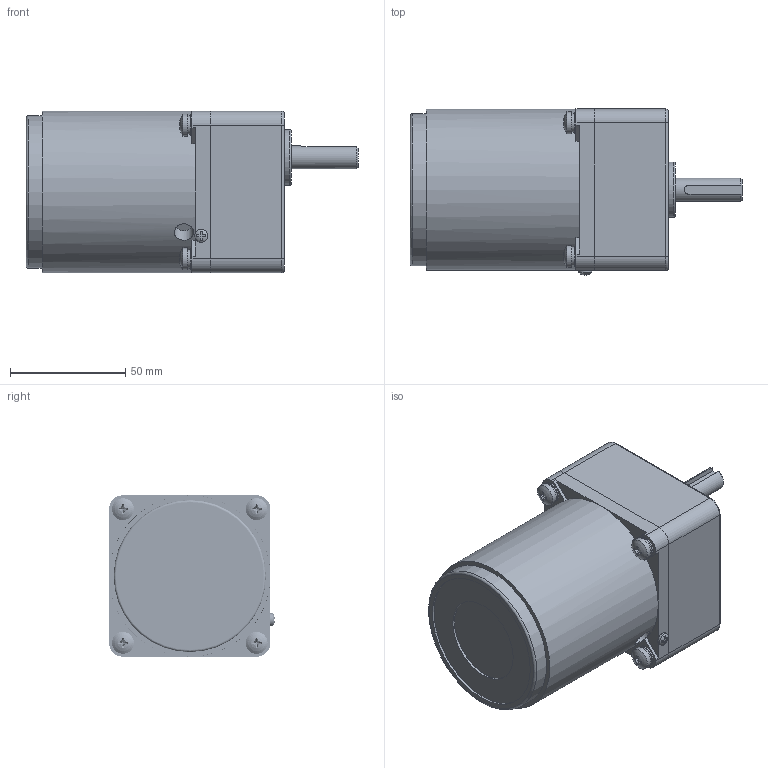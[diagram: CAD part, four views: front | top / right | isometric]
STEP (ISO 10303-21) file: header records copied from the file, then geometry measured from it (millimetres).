
FILE_DESCRIPTION(/* description */ (''),/* implementation_level */ '2;1');
FILE_NAME(/* name */ '70矮箱L-15W普通.stp',/* time_stamp */ '2022-10-31T09:05:48+08:00',/* author */ (''),/* organization */ (''),/* preprocessor_version */ 'ST-DEVELOPER v16.7',/* originating_system */ 'SIEMENS PLM Software NX 1899',/* authorisation */ '');
FILE_SCHEMA (('AP203_CONFIGURATION_CONTROLLED_3D_DESIGN_OF_MECHANICAL_PARTS_AND_ASSEMBLIES_MIM_LF { 1 0 10303 403 2 1 2}'));
Products named in the file (1): yf186188FEB6lc65
Bounding box: 144 x 71.94 x 70 mm (x, y, z)
Volume: 464756 mm3; surface area: 55044.9 mm2
Topology: 14 solids, 15 shells, 297 faces, 745 edges, 497 vertices
Faces by surface type: plane 120, bspline 88, cylinder 66, torus 11, cone 7, sphere 5
Full cylindrical faces by diameter (mm): 2.7 x1, 4.826 x4, 5 x4, 5.3 x4, 5.6 x1, 6 x5, 8.3 x1, 9 x4, 9.5 x4, 10 x1, 24 x1, 37 x1, 60 x1, 63 x1, 66 x1, 66.6 x2, 70 x1
Entity records: 54461 total; most frequent: CARTESIAN_POINT 47923, ORIENTED_EDGE 1308, DIRECTION 1037, EDGE_CURVE 654, VERTEX_POINT 460, AXIS2_PLACEMENT_3D 429, EDGE_LOOP 393, ADVANCED_FACE 297
